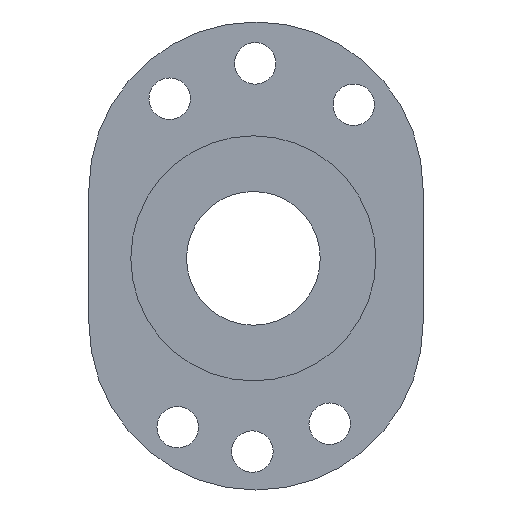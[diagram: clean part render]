
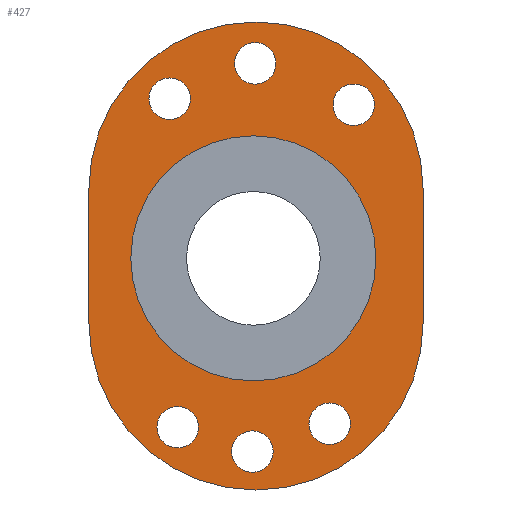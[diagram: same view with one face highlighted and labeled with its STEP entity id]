
A CAD part, front view. The second image highlights one B-rep face of the part: STEP entity #427.
In plain terms, the highlighted free-form (B-spline) face has degree [1, 1] with [2, 2] control points.
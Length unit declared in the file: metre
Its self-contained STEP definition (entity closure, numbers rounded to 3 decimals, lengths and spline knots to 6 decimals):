
#14=LINE('',#723,#22);
#19=LINE('',#747,#27);
#22=VECTOR('',#519,1.);
#27=VECTOR('',#528,1.);
#30=B_SPLINE_SURFACE_WITH_KNOTS('',1,1,((#822,#823),(#824,#825)),
 .PLANE_SURF.,.F.,.F.,.F.,(2,2),(2,2),(0.,1.),(0.,1.),.UNSPECIFIED.);
#123=ORIENTED_EDGE('',*,*,#185,.F.);
#124=ORIENTED_EDGE('',*,*,#227,.F.);
#125=ORIENTED_EDGE('',*,*,#189,.F.);
#126=ORIENTED_EDGE('',*,*,#225,.F.);
#127=ORIENTED_EDGE('',*,*,#193,.F.);
#128=ORIENTED_EDGE('',*,*,#223,.F.);
#129=ORIENTED_EDGE('',*,*,#197,.F.);
#130=ORIENTED_EDGE('',*,*,#221,.F.);
#131=ORIENTED_EDGE('',*,*,#207,.F.);
#132=ORIENTED_EDGE('',*,*,#211,.F.);
#133=ORIENTED_EDGE('',*,*,#214,.F.);
#134=ORIENTED_EDGE('',*,*,#219,.F.);
#135=ORIENTED_EDGE('',*,*,#218,.F.);
#136=ORIENTED_EDGE('',*,*,#231,.F.);
#137=ORIENTED_EDGE('',*,*,#175,.F.);
#138=ORIENTED_EDGE('',*,*,#201,.F.);
#139=ORIENTED_EDGE('',*,*,#215,.F.);
#140=ORIENTED_EDGE('',*,*,#181,.F.);
#141=ORIENTED_EDGE('',*,*,#229,.F.);
#175=EDGE_CURVE('',#237,#238,#278,.T.);
#181=EDGE_CURVE('',#243,#244,#281,.T.);
#185=EDGE_CURVE('',#247,#248,#283,.T.);
#189=EDGE_CURVE('',#251,#252,#285,.T.);
#193=EDGE_CURVE('',#255,#256,#287,.T.);
#197=EDGE_CURVE('',#259,#260,#289,.T.);
#201=EDGE_CURVE('',#263,#264,#291,.T.);
#207=EDGE_CURVE('',#269,#270,#14,.T.);
#211=EDGE_CURVE('',#272,#269,#294,.T.);
#214=EDGE_CURVE('',#274,#272,#19,.T.);
#215=EDGE_CURVE('',#264,#263,#295,.T.);
#218=EDGE_CURVE('',#270,#276,#298,.T.);
#219=EDGE_CURVE('',#276,#274,#299,.T.);
#221=EDGE_CURVE('',#260,#259,#301,.T.);
#223=EDGE_CURVE('',#256,#255,#303,.T.);
#225=EDGE_CURVE('',#252,#251,#305,.T.);
#227=EDGE_CURVE('',#248,#247,#307,.T.);
#229=EDGE_CURVE('',#244,#243,#309,.T.);
#231=EDGE_CURVE('',#238,#237,#311,.T.);
#237=VERTEX_POINT('',#583);
#238=VERTEX_POINT('',#585);
#243=VERTEX_POINT('',#615);
#244=VERTEX_POINT('',#616);
#247=VERTEX_POINT('',#633);
#248=VERTEX_POINT('',#634);
#251=VERTEX_POINT('',#651);
#252=VERTEX_POINT('',#652);
#255=VERTEX_POINT('',#669);
#256=VERTEX_POINT('',#670);
#259=VERTEX_POINT('',#687);
#260=VERTEX_POINT('',#688);
#263=VERTEX_POINT('',#705);
#264=VERTEX_POINT('',#706);
#269=VERTEX_POINT('',#722);
#270=VERTEX_POINT('',#724);
#272=VERTEX_POINT('',#737);
#274=VERTEX_POINT('',#746);
#276=VERTEX_POINT('',#769);
#278=CIRCLE('',#446,0.011);
#281=CIRCLE('',#449,0.001861);
#283=CIRCLE('',#451,0.001861);
#285=CIRCLE('',#453,0.001861);
#287=CIRCLE('',#455,0.001861);
#289=CIRCLE('',#457,0.001861);
#291=CIRCLE('',#459,0.001861);
#294=CIRCLE('',#462,0.015);
#295=CIRCLE('',#463,0.001861);
#298=CIRCLE('',#466,0.015);
#299=CIRCLE('',#467,0.015);
#301=CIRCLE('',#469,0.001861);
#303=CIRCLE('',#471,0.001861);
#305=CIRCLE('',#473,0.001861);
#307=CIRCLE('',#475,0.001861);
#309=CIRCLE('',#477,0.001861);
#311=CIRCLE('',#479,0.011);
#333=EDGE_LOOP('',(#123,#124));
#334=EDGE_LOOP('',(#125,#126));
#335=EDGE_LOOP('',(#127,#128));
#336=EDGE_LOOP('',(#129,#130));
#337=EDGE_LOOP('',(#131,#132,#133,#134,#135));
#338=EDGE_LOOP('',(#136,#137));
#339=EDGE_LOOP('',(#138,#139));
#340=EDGE_LOOP('',(#140,#141));
#371=FACE_BOUND('',#333,.T.);
#372=FACE_BOUND('',#334,.T.);
#373=FACE_BOUND('',#335,.T.);
#374=FACE_BOUND('',#336,.T.);
#375=FACE_BOUND('',#337,.T.);
#376=FACE_BOUND('',#338,.T.);
#377=FACE_BOUND('',#339,.T.);
#378=FACE_BOUND('',#340,.T.);
#427=ADVANCED_FACE('',(#371,#372,#373,#374,#375,#376,#377,#378),#30,.T.);
#446=AXIS2_PLACEMENT_3D('',#584,#487,#488);
#449=AXIS2_PLACEMENT_3D('',#614,#493,#494);
#451=AXIS2_PLACEMENT_3D('',#632,#497,#498);
#453=AXIS2_PLACEMENT_3D('',#650,#501,#502);
#455=AXIS2_PLACEMENT_3D('',#668,#505,#506);
#457=AXIS2_PLACEMENT_3D('',#686,#509,#510);
#459=AXIS2_PLACEMENT_3D('',#704,#513,#514);
#462=AXIS2_PLACEMENT_3D('',#738,#524,#525);
#463=AXIS2_PLACEMENT_3D('',#756,#529,#530);
#466=AXIS2_PLACEMENT_3D('',#768,#535,#536);
#467=AXIS2_PLACEMENT_3D('',#770,#537,#538);
#469=AXIS2_PLACEMENT_3D('',#780,#541,#542);
#471=AXIS2_PLACEMENT_3D('',#790,#545,#546);
#473=AXIS2_PLACEMENT_3D('',#800,#549,#550);
#475=AXIS2_PLACEMENT_3D('',#810,#553,#554);
#477=AXIS2_PLACEMENT_3D('',#820,#557,#558);
#479=AXIS2_PLACEMENT_3D('',#826,#561,#562);
#487=DIRECTION('',(0.,-1.,0.));
#488=DIRECTION('',(0.,0.,-1.));
#493=DIRECTION('',(0.,-1.,0.));
#494=DIRECTION('',(0.,0.,-1.));
#497=DIRECTION('',(0.,-1.,0.));
#498=DIRECTION('',(0.,0.,-1.));
#501=DIRECTION('',(0.,-1.,0.));
#502=DIRECTION('',(0.,0.,-1.));
#505=DIRECTION('',(0.,-1.,0.));
#506=DIRECTION('',(0.,0.,-1.));
#509=DIRECTION('',(0.,-1.,0.));
#510=DIRECTION('',(0.,0.,-1.));
#513=DIRECTION('',(0.,-1.,0.));
#514=DIRECTION('',(0.,0.,-1.));
#519=DIRECTION('',(0.,0.,-1.));
#524=DIRECTION('',(0.,1.,0.));
#525=DIRECTION('',(0.,0.,-1.));
#528=DIRECTION('',(0.,0.,1.));
#529=DIRECTION('',(0.,-1.,0.));
#530=DIRECTION('',(0.,0.,-1.));
#535=DIRECTION('',(0.,1.,0.));
#536=DIRECTION('',(0.,0.,-1.));
#537=DIRECTION('',(0.,1.,0.));
#538=DIRECTION('',(0.,0.,-1.));
#541=DIRECTION('',(0.,-1.,0.));
#542=DIRECTION('',(0.,0.,-1.));
#545=DIRECTION('',(0.,-1.,0.));
#546=DIRECTION('',(0.,0.,-1.));
#549=DIRECTION('',(0.,-1.,0.));
#550=DIRECTION('',(0.,0.,-1.));
#553=DIRECTION('',(0.,-1.,0.));
#554=DIRECTION('',(0.,0.,-1.));
#557=DIRECTION('',(0.,-1.,0.));
#558=DIRECTION('',(0.,0.,-1.));
#561=DIRECTION('',(0.,-1.,0.));
#562=DIRECTION('',(0.,0.,-1.));
#583=CARTESIAN_POINT('',(-0.10998,-0.002,0.15446));
#584=CARTESIAN_POINT('',(-0.10998,-0.002,0.16546));
#585=CARTESIAN_POINT('',(-0.10998,-0.002,0.17646));
#614=CARTESIAN_POINT('',(-0.116775,-0.002,0.150309));
#615=CARTESIAN_POINT('',(-0.116775,-0.002,0.15217));
#616=CARTESIAN_POINT('',(-0.116775,-0.002,0.148448));
#632=CARTESIAN_POINT('',(-0.103132,-0.002,0.150619));
#633=CARTESIAN_POINT('',(-0.103132,-0.002,0.152481));
#634=CARTESIAN_POINT('',(-0.103132,-0.002,0.148758));
#650=CARTESIAN_POINT('',(-0.110069,-0.002,0.14812));
#651=CARTESIAN_POINT('',(-0.110069,-0.002,0.149982));
#652=CARTESIAN_POINT('',(-0.110069,-0.002,0.146259));
#668=CARTESIAN_POINT('',(-0.117493,-0.002,0.179785));
#669=CARTESIAN_POINT('',(-0.117493,-0.002,0.181646));
#670=CARTESIAN_POINT('',(-0.117493,-0.002,0.177924));
#686=CARTESIAN_POINT('',(-0.109824,-0.002,0.182955));
#687=CARTESIAN_POINT('',(-0.109824,-0.002,0.184817));
#688=CARTESIAN_POINT('',(-0.109824,-0.002,0.181094));
#704=CARTESIAN_POINT('',(-0.100972,-0.002,0.17924));
#705=CARTESIAN_POINT('',(-0.100972,-0.002,0.181101));
#706=CARTESIAN_POINT('',(-0.100972,-0.002,0.177379));
#722=CARTESIAN_POINT('',(-0.094745,-0.002,0.17167));
#723=CARTESIAN_POINT('',(-0.094745,-0.002,0.16567));
#724=CARTESIAN_POINT('',(-0.094745,-0.002,0.15967));
#737=CARTESIAN_POINT('',(-0.124745,-0.002,0.17167));
#738=CARTESIAN_POINT('',(-0.109745,-0.002,0.17167));
#746=CARTESIAN_POINT('',(-0.124745,-0.002,0.15967));
#747=CARTESIAN_POINT('',(-0.124745,-0.002,0.16567));
#756=CARTESIAN_POINT('',(-0.100972,-0.002,0.17924));
#768=CARTESIAN_POINT('',(-0.109745,-0.002,0.15967));
#769=CARTESIAN_POINT('',(-0.109745,-0.002,0.14467));
#770=CARTESIAN_POINT('',(-0.109745,-0.002,0.15967));
#780=CARTESIAN_POINT('',(-0.109824,-0.002,0.182955));
#790=CARTESIAN_POINT('',(-0.117493,-0.002,0.179785));
#800=CARTESIAN_POINT('',(-0.110069,-0.002,0.14812));
#810=CARTESIAN_POINT('',(-0.103132,-0.002,0.150619));
#820=CARTESIAN_POINT('',(-0.116775,-0.002,0.150309));
#822=CARTESIAN_POINT('',(-0.126245,-0.002,0.142293));
#823=CARTESIAN_POINT('',(-0.126245,-0.002,0.189047));
#824=CARTESIAN_POINT('',(-0.093245,-0.002,0.142293));
#825=CARTESIAN_POINT('',(-0.093245,-0.002,0.189047));
#826=CARTESIAN_POINT('',(-0.10998,-0.002,0.16546));
